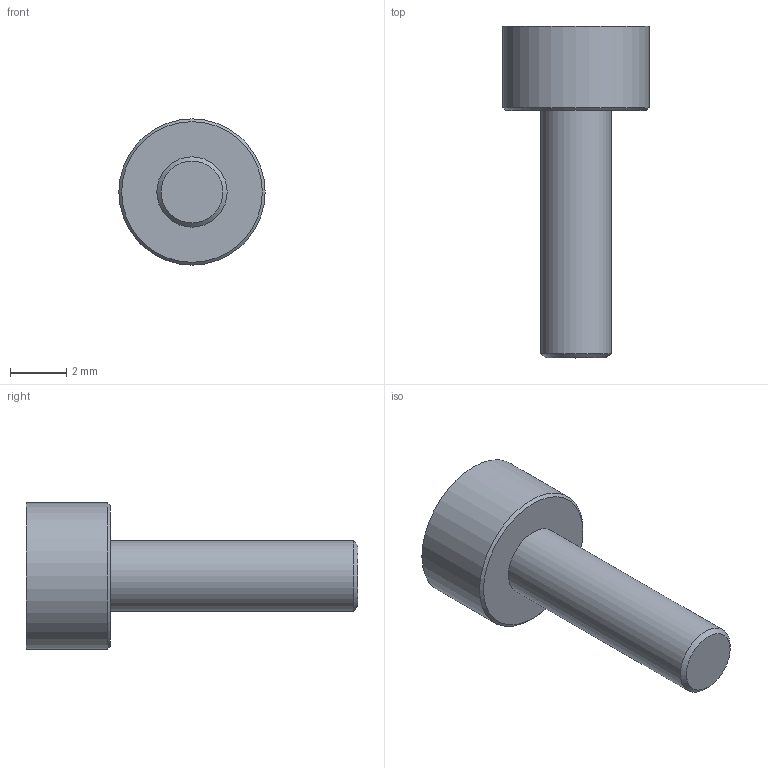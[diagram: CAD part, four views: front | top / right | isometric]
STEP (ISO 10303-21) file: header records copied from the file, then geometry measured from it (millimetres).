
FILE_DESCRIPTION (( 'STEP AP214' ), '1' );
FILE_NAME ('SK-10.STEP', '2018-10-09T18:04:14', ( '' ), ( '' ), 'SwSTEP 2.0', 'SolidWorks 2017', '' );
FILE_SCHEMA (( 'AUTOMOTIVE_DESIGN' ));
Length unit declared in the file: millimetre
Products named in the file (1): SK-10
Bounding box: 5.2 x 11.8 x 5.2 mm (x, y, z)
Volume: 106.1 mm3; surface area: 162.3 mm2
Topology: 1 solids, 1 shells, 20 faces, 48 edges, 32 vertices
Faces by surface type: plane 11, cylinder 7, cone 2
Full cylindrical faces by diameter (mm): 2.5 x1, 5.2 x1
Entity records: 574 total; most frequent: CARTESIAN_POINT 123, ORIENTED_EDGE 84, DIRECTION 80, EDGE_CURVE 42, VERTEX_POINT 30, AXIS2_PLACEMENT_3D 27, EDGE_LOOP 26, LINE 26
